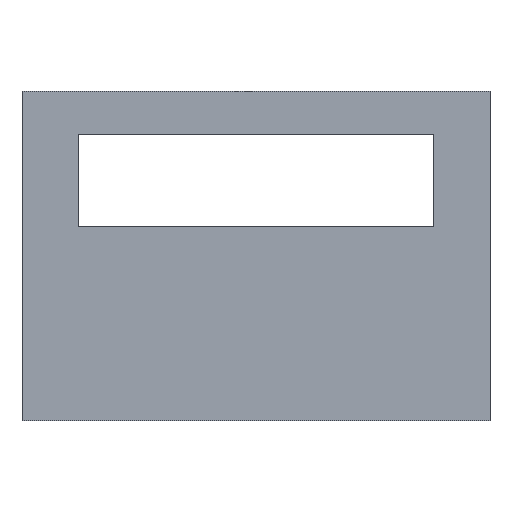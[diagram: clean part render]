
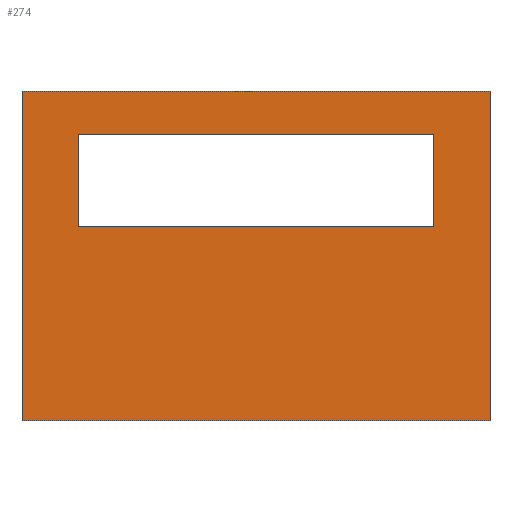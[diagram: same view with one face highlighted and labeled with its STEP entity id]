
A CAD part, top view. The second image highlights one B-rep face of the part: STEP entity #274.
In plain terms, the highlighted planar face has unit normal (0, 0, 1).
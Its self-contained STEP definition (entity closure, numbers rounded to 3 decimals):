
#24 = VERTEX_POINT('',#25);
#25 = CARTESIAN_POINT('',(-2.5,-2.5,16.5));
#32 = PLANE('',#33);
#33 = AXIS2_PLACEMENT_3D('',#34,#35,#36);
#34 = CARTESIAN_POINT('',(-2.5,-2.5,14.));
#35 = DIRECTION('',(1.,0.,-0.));
#36 = DIRECTION('',(0.,0.,1.));
#44 = PLANE('',#45);
#45 = AXIS2_PLACEMENT_3D('',#46,#47,#48);
#46 = CARTESIAN_POINT('',(-2.5,-2.5,14.));
#47 = DIRECTION('',(-0.,1.,0.));
#48 = DIRECTION('',(0.,0.,1.));
#141 = VERTEX_POINT('',#142);
#142 = CARTESIAN_POINT('',(-2.5,47.5,16.5));
#156 = PLANE('',#157);
#157 = AXIS2_PLACEMENT_3D('',#158,#159,#160);
#158 = CARTESIAN_POINT('',(-2.5,47.5,14.));
#159 = DIRECTION('',(-0.,1.,0.));
#160 = DIRECTION('',(0.,0.,1.));
#168 = EDGE_CURVE('',#24,#141,#169,.T.);
#169 = SURFACE_CURVE('',#170,(#174,#181),.PCURVE_S1.);
#170 = LINE('',#171,#172);
#171 = CARTESIAN_POINT('',(-2.5,-2.5,16.5));
#172 = VECTOR('',#173,1.);
#173 = DIRECTION('',(-0.,1.,0.));
#174 = PCURVE('',#32,#175);
#175 = DEFINITIONAL_REPRESENTATION('',(#176),#180);
#176 = LINE('',#177,#178);
#177 = CARTESIAN_POINT('',(2.5,0.));
#178 = VECTOR('',#179,1.);
#179 = DIRECTION('',(0.,-1.));
#180 = ( GEOMETRIC_REPRESENTATION_CONTEXT(2) 
PARAMETRIC_REPRESENTATION_CONTEXT() REPRESENTATION_CONTEXT('2D SPACE',''
  ) );
#181 = PCURVE('',#182,#187);
#182 = PLANE('',#183);
#183 = AXIS2_PLACEMENT_3D('',#184,#185,#186);
#184 = CARTESIAN_POINT('',(-2.5,-2.5,16.5));
#185 = DIRECTION('',(0.,0.,1.));
#186 = DIRECTION('',(1.,0.,-0.));
#187 = DEFINITIONAL_REPRESENTATION('',(#188),#192);
#188 = LINE('',#189,#190);
#189 = CARTESIAN_POINT('',(0.,0.));
#190 = VECTOR('',#191,1.);
#191 = DIRECTION('',(0.,1.));
#192 = ( GEOMETRIC_REPRESENTATION_CONTEXT(2) 
PARAMETRIC_REPRESENTATION_CONTEXT() REPRESENTATION_CONTEXT('2D SPACE',''
  ) );
#226 = EDGE_CURVE('',#24,#227,#229,.T.);
#227 = VERTEX_POINT('',#228);
#228 = CARTESIAN_POINT('',(68.5,-2.5,16.5));
#229 = SURFACE_CURVE('',#230,(#234,#241),.PCURVE_S1.);
#230 = LINE('',#231,#232);
#231 = CARTESIAN_POINT('',(-2.5,-2.5,16.5));
#232 = VECTOR('',#233,1.);
#233 = DIRECTION('',(1.,0.,-0.));
#234 = PCURVE('',#44,#235);
#235 = DEFINITIONAL_REPRESENTATION('',(#236),#240);
#236 = LINE('',#237,#238);
#237 = CARTESIAN_POINT('',(2.5,0.));
#238 = VECTOR('',#239,1.);
#239 = DIRECTION('',(0.,1.));
#240 = ( GEOMETRIC_REPRESENTATION_CONTEXT(2) 
PARAMETRIC_REPRESENTATION_CONTEXT() REPRESENTATION_CONTEXT('2D SPACE',''
  ) );
#241 = PCURVE('',#182,#242);
#242 = DEFINITIONAL_REPRESENTATION('',(#243),#247);
#243 = LINE('',#244,#245);
#244 = CARTESIAN_POINT('',(0.,0.));
#245 = VECTOR('',#246,1.);
#246 = DIRECTION('',(1.,0.));
#247 = ( GEOMETRIC_REPRESENTATION_CONTEXT(2) 
PARAMETRIC_REPRESENTATION_CONTEXT() REPRESENTATION_CONTEXT('2D SPACE',''
  ) );
#263 = PLANE('',#264);
#264 = AXIS2_PLACEMENT_3D('',#265,#266,#267);
#265 = CARTESIAN_POINT('',(68.5,-2.5,14.));
#266 = DIRECTION('',(1.,0.,-0.));
#267 = DIRECTION('',(0.,0.,1.));
#274 = ADVANCED_FACE('',(#275,#323),#182,.T.);
#275 = FACE_BOUND('',#276,.T.);
#276 = EDGE_LOOP('',(#277,#278,#279,#302));
#277 = ORIENTED_EDGE('',*,*,#168,.F.);
#278 = ORIENTED_EDGE('',*,*,#226,.T.);
#279 = ORIENTED_EDGE('',*,*,#280,.T.);
#280 = EDGE_CURVE('',#227,#281,#283,.T.);
#281 = VERTEX_POINT('',#282);
#282 = CARTESIAN_POINT('',(68.5,47.5,16.5));
#283 = SURFACE_CURVE('',#284,(#288,#295),.PCURVE_S1.);
#284 = LINE('',#285,#286);
#285 = CARTESIAN_POINT('',(68.5,-2.5,16.5));
#286 = VECTOR('',#287,1.);
#287 = DIRECTION('',(-0.,1.,0.));
#288 = PCURVE('',#182,#289);
#289 = DEFINITIONAL_REPRESENTATION('',(#290),#294);
#290 = LINE('',#291,#292);
#291 = CARTESIAN_POINT('',(71.,0.));
#292 = VECTOR('',#293,1.);
#293 = DIRECTION('',(0.,1.));
#294 = ( GEOMETRIC_REPRESENTATION_CONTEXT(2) 
PARAMETRIC_REPRESENTATION_CONTEXT() REPRESENTATION_CONTEXT('2D SPACE',''
  ) );
#295 = PCURVE('',#263,#296);
#296 = DEFINITIONAL_REPRESENTATION('',(#297),#301);
#297 = LINE('',#298,#299);
#298 = CARTESIAN_POINT('',(2.5,0.));
#299 = VECTOR('',#300,1.);
#300 = DIRECTION('',(0.,-1.));
#301 = ( GEOMETRIC_REPRESENTATION_CONTEXT(2) 
PARAMETRIC_REPRESENTATION_CONTEXT() REPRESENTATION_CONTEXT('2D SPACE',''
  ) );
#302 = ORIENTED_EDGE('',*,*,#303,.F.);
#303 = EDGE_CURVE('',#141,#281,#304,.T.);
#304 = SURFACE_CURVE('',#305,(#309,#316),.PCURVE_S1.);
#305 = LINE('',#306,#307);
#306 = CARTESIAN_POINT('',(-2.5,47.5,16.5));
#307 = VECTOR('',#308,1.);
#308 = DIRECTION('',(1.,0.,-0.));
#309 = PCURVE('',#182,#310);
#310 = DEFINITIONAL_REPRESENTATION('',(#311),#315);
#311 = LINE('',#312,#313);
#312 = CARTESIAN_POINT('',(0.,50.));
#313 = VECTOR('',#314,1.);
#314 = DIRECTION('',(1.,0.));
#315 = ( GEOMETRIC_REPRESENTATION_CONTEXT(2) 
PARAMETRIC_REPRESENTATION_CONTEXT() REPRESENTATION_CONTEXT('2D SPACE',''
  ) );
#316 = PCURVE('',#156,#317);
#317 = DEFINITIONAL_REPRESENTATION('',(#318),#322);
#318 = LINE('',#319,#320);
#319 = CARTESIAN_POINT('',(2.5,0.));
#320 = VECTOR('',#321,1.);
#321 = DIRECTION('',(0.,1.));
#322 = ( GEOMETRIC_REPRESENTATION_CONTEXT(2) 
PARAMETRIC_REPRESENTATION_CONTEXT() REPRESENTATION_CONTEXT('2D SPACE',''
  ) );
#323 = FACE_BOUND('',#324,.T.);
#324 = EDGE_LOOP('',(#325,#353,#379,#405));
#325 = ORIENTED_EDGE('',*,*,#326,.T.);
#326 = EDGE_CURVE('',#327,#329,#331,.T.);
#327 = VERTEX_POINT('',#328);
#328 = CARTESIAN_POINT('',(60.,27.,16.5));
#329 = VERTEX_POINT('',#330);
#330 = CARTESIAN_POINT('',(6.,27.,16.5));
#331 = SURFACE_CURVE('',#332,(#336,#342),.PCURVE_S1.);
#332 = LINE('',#333,#334);
#333 = CARTESIAN_POINT('',(1.75,27.,16.5));
#334 = VECTOR('',#335,1.);
#335 = DIRECTION('',(-1.,-0.,0.));
#336 = PCURVE('',#182,#337);
#337 = DEFINITIONAL_REPRESENTATION('',(#338),#341);
#338 = B_SPLINE_CURVE_WITH_KNOTS('',1,(#339,#340),.UNSPECIFIED.,.F.,.F.,
  (2,2),(-58.25,-4.25),.PIECEWISE_BEZIER_KNOTS.);
#339 = CARTESIAN_POINT('',(62.5,29.5));
#340 = CARTESIAN_POINT('',(8.5,29.5));
#341 = ( GEOMETRIC_REPRESENTATION_CONTEXT(2) 
PARAMETRIC_REPRESENTATION_CONTEXT() REPRESENTATION_CONTEXT('2D SPACE',''
  ) );
#342 = PCURVE('',#343,#348);
#343 = PLANE('',#344);
#344 = AXIS2_PLACEMENT_3D('',#345,#346,#347);
#345 = CARTESIAN_POINT('',(6.,27.,13.9));
#346 = DIRECTION('',(-0.,1.,0.));
#347 = DIRECTION('',(0.,0.,1.));
#348 = DEFINITIONAL_REPRESENTATION('',(#349),#352);
#349 = B_SPLINE_CURVE_WITH_KNOTS('',1,(#350,#351),.UNSPECIFIED.,.F.,.F.,
  (2,2),(-58.25,-4.25),.PIECEWISE_BEZIER_KNOTS.);
#350 = CARTESIAN_POINT('',(2.6,54.));
#351 = CARTESIAN_POINT('',(2.6,0.));
#352 = ( GEOMETRIC_REPRESENTATION_CONTEXT(2) 
PARAMETRIC_REPRESENTATION_CONTEXT() REPRESENTATION_CONTEXT('2D SPACE',''
  ) );
#353 = ORIENTED_EDGE('',*,*,#354,.T.);
#354 = EDGE_CURVE('',#329,#355,#357,.T.);
#355 = VERTEX_POINT('',#356);
#356 = CARTESIAN_POINT('',(6.,41.,16.5));
#357 = SURFACE_CURVE('',#358,(#362,#368),.PCURVE_S1.);
#358 = LINE('',#359,#360);
#359 = CARTESIAN_POINT('',(6.,12.25,16.5));
#360 = VECTOR('',#361,1.);
#361 = DIRECTION('',(-0.,1.,0.));
#362 = PCURVE('',#182,#363);
#363 = DEFINITIONAL_REPRESENTATION('',(#364),#367);
#364 = B_SPLINE_CURVE_WITH_KNOTS('',1,(#365,#366),.UNSPECIFIED.,.F.,.F.,
  (2,2),(14.75,28.75),.PIECEWISE_BEZIER_KNOTS.);
#365 = CARTESIAN_POINT('',(8.5,29.5));
#366 = CARTESIAN_POINT('',(8.5,43.5));
#367 = ( GEOMETRIC_REPRESENTATION_CONTEXT(2) 
PARAMETRIC_REPRESENTATION_CONTEXT() REPRESENTATION_CONTEXT('2D SPACE',''
  ) );
#368 = PCURVE('',#369,#374);
#369 = PLANE('',#370);
#370 = AXIS2_PLACEMENT_3D('',#371,#372,#373);
#371 = CARTESIAN_POINT('',(6.,27.,13.9));
#372 = DIRECTION('',(1.,0.,-0.));
#373 = DIRECTION('',(0.,0.,1.));
#374 = DEFINITIONAL_REPRESENTATION('',(#375),#378);
#375 = B_SPLINE_CURVE_WITH_KNOTS('',1,(#376,#377),.UNSPECIFIED.,.F.,.F.,
  (2,2),(14.75,28.75),.PIECEWISE_BEZIER_KNOTS.);
#376 = CARTESIAN_POINT('',(2.6,0.));
#377 = CARTESIAN_POINT('',(2.6,-14.));
#378 = ( GEOMETRIC_REPRESENTATION_CONTEXT(2) 
PARAMETRIC_REPRESENTATION_CONTEXT() REPRESENTATION_CONTEXT('2D SPACE',''
  ) );
#379 = ORIENTED_EDGE('',*,*,#380,.F.);
#380 = EDGE_CURVE('',#381,#355,#383,.T.);
#381 = VERTEX_POINT('',#382);
#382 = CARTESIAN_POINT('',(60.,41.,16.5));
#383 = SURFACE_CURVE('',#384,(#388,#394),.PCURVE_S1.);
#384 = LINE('',#385,#386);
#385 = CARTESIAN_POINT('',(1.75,41.,16.5));
#386 = VECTOR('',#387,1.);
#387 = DIRECTION('',(-1.,-0.,0.));
#388 = PCURVE('',#182,#389);
#389 = DEFINITIONAL_REPRESENTATION('',(#390),#393);
#390 = B_SPLINE_CURVE_WITH_KNOTS('',1,(#391,#392),.UNSPECIFIED.,.F.,.F.,
  (2,2),(-58.25,-4.25),.PIECEWISE_BEZIER_KNOTS.);
#391 = CARTESIAN_POINT('',(62.5,43.5));
#392 = CARTESIAN_POINT('',(8.5,43.5));
#393 = ( GEOMETRIC_REPRESENTATION_CONTEXT(2) 
PARAMETRIC_REPRESENTATION_CONTEXT() REPRESENTATION_CONTEXT('2D SPACE',''
  ) );
#394 = PCURVE('',#395,#400);
#395 = PLANE('',#396);
#396 = AXIS2_PLACEMENT_3D('',#397,#398,#399);
#397 = CARTESIAN_POINT('',(6.,41.,13.9));
#398 = DIRECTION('',(-0.,1.,0.));
#399 = DIRECTION('',(0.,0.,1.));
#400 = DEFINITIONAL_REPRESENTATION('',(#401),#404);
#401 = B_SPLINE_CURVE_WITH_KNOTS('',1,(#402,#403),.UNSPECIFIED.,.F.,.F.,
  (2,2),(-58.25,-4.25),.PIECEWISE_BEZIER_KNOTS.);
#402 = CARTESIAN_POINT('',(2.6,54.));
#403 = CARTESIAN_POINT('',(2.6,0.));
#404 = ( GEOMETRIC_REPRESENTATION_CONTEXT(2) 
PARAMETRIC_REPRESENTATION_CONTEXT() REPRESENTATION_CONTEXT('2D SPACE',''
  ) );
#405 = ORIENTED_EDGE('',*,*,#406,.F.);
#406 = EDGE_CURVE('',#327,#381,#407,.T.);
#407 = SURFACE_CURVE('',#408,(#412,#418),.PCURVE_S1.);
#408 = LINE('',#409,#410);
#409 = CARTESIAN_POINT('',(60.,12.25,16.5));
#410 = VECTOR('',#411,1.);
#411 = DIRECTION('',(-0.,1.,0.));
#412 = PCURVE('',#182,#413);
#413 = DEFINITIONAL_REPRESENTATION('',(#414),#417);
#414 = B_SPLINE_CURVE_WITH_KNOTS('',1,(#415,#416),.UNSPECIFIED.,.F.,.F.,
  (2,2),(14.75,28.75),.PIECEWISE_BEZIER_KNOTS.);
#415 = CARTESIAN_POINT('',(62.5,29.5));
#416 = CARTESIAN_POINT('',(62.5,43.5));
#417 = ( GEOMETRIC_REPRESENTATION_CONTEXT(2) 
PARAMETRIC_REPRESENTATION_CONTEXT() REPRESENTATION_CONTEXT('2D SPACE',''
  ) );
#418 = PCURVE('',#419,#424);
#419 = PLANE('',#420);
#420 = AXIS2_PLACEMENT_3D('',#421,#422,#423);
#421 = CARTESIAN_POINT('',(60.,27.,13.9));
#422 = DIRECTION('',(1.,0.,-0.));
#423 = DIRECTION('',(0.,0.,1.));
#424 = DEFINITIONAL_REPRESENTATION('',(#425),#428);
#425 = B_SPLINE_CURVE_WITH_KNOTS('',1,(#426,#427),.UNSPECIFIED.,.F.,.F.,
  (2,2),(14.75,28.75),.PIECEWISE_BEZIER_KNOTS.);
#426 = CARTESIAN_POINT('',(2.6,0.));
#427 = CARTESIAN_POINT('',(2.6,-14.));
#428 = ( GEOMETRIC_REPRESENTATION_CONTEXT(2) 
PARAMETRIC_REPRESENTATION_CONTEXT() REPRESENTATION_CONTEXT('2D SPACE',''
  ) );
